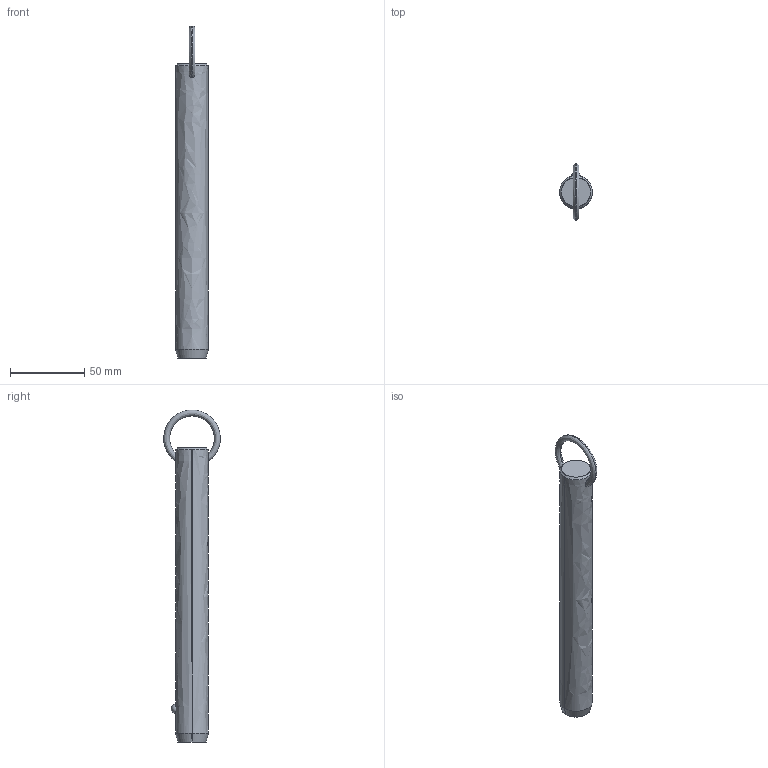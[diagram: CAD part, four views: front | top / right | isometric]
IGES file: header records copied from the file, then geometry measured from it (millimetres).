
Start section: SolidWorks IGES file using analytic representation for surfaces
Global section: file name: C:\Users\liam_\OneDrive\Documents\WORK\Work for WixRoyd\Job Files\J-00019 - Matt Davis CAD Checking\04. CAD Drawings\automotion20190605\P1250.2_v2\P1250.2_v2_20190729_IGES\P1250.087-630.igs; native system: SolidWorks 2017; preprocessor: SolidWorks 2017; author: liam_; date: 190730.074252; units: millimetre
Bounding box: 22.2 x 38.1 x 223.5 mm (x, y, z)
Surface area: 15459.9 mm2 (no closed solid volume)
Topology: 0 solids, 0 shells, 12 faces, 302 edges, 300 vertices
Faces by surface type: revolution 8, bspline 4
